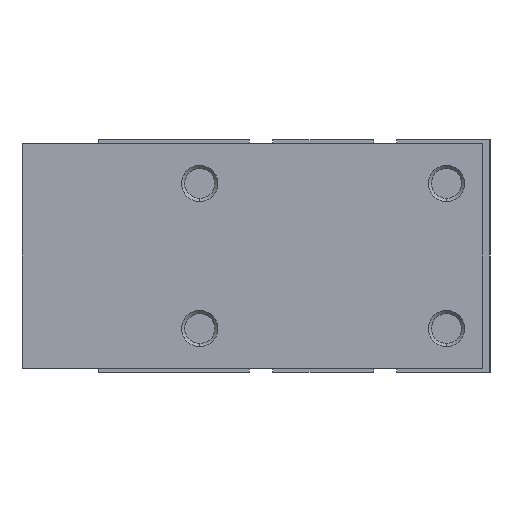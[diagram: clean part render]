
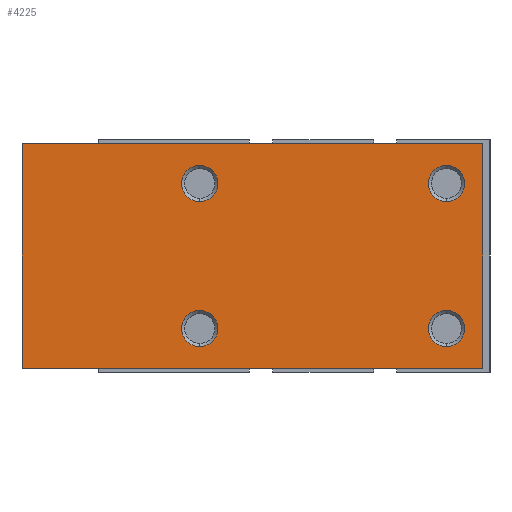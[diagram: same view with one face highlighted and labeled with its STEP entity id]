
A CAD part, left-side view. The second image highlights one B-rep face of the part: STEP entity #4225.
In plain terms, the highlighted planar face has unit normal (-1, 0, 0).
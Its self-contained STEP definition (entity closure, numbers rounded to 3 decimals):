
#113 = DIRECTION ( 'NONE',  ( 0., 0., 1. ) ) ;
#231 = CARTESIAN_POINT ( 'NONE',  ( -15.5, -17., 7.5 ) ) ;
#294 = EDGE_CURVE ( 'NONE', #4416, #3961, #3108, .T. ) ;
#307 = CARTESIAN_POINT ( 'NONE',  ( -15.5, 41.5, 15.5 ) ) ;
#316 = EDGE_LOOP ( 'NONE', ( #4082, #4719 ) ) ;
#350 = ORIENTED_EDGE ( 'NONE', *, *, #5688, .F. ) ;
#460 = VERTEX_POINT ( 'NONE', #1986 ) ;
#477 = CARTESIAN_POINT ( 'NONE',  ( -15.5, 17., 12.5 ) ) ;
#570 = CARTESIAN_POINT ( 'NONE',  ( -15.5, 41.5, -15.5 ) ) ;
#578 = FACE_BOUND ( 'NONE', #316, .T. ) ;
#601 = CARTESIAN_POINT ( 'NONE',  ( -15.5, -22., 15.5 ) ) ;
#825 = VERTEX_POINT ( 'NONE', #2387 ) ;
#826 = CARTESIAN_POINT ( 'NONE',  ( -15.5, 41.5, 15.5 ) ) ;
#857 = CARTESIAN_POINT ( 'NONE',  ( -15.5, 41.5, -15.5 ) ) ;
#879 = CARTESIAN_POINT ( 'NONE',  ( -15.5, -22., 15.5 ) ) ;
#891 = AXIS2_PLACEMENT_3D ( 'NONE', #4467, #3512, #5449 ) ;
#896 = EDGE_CURVE ( 'NONE', #5200, #460, #2395, .T. ) ;
#909 = EDGE_LOOP ( 'NONE', ( #4496, #3900 ) ) ;
#1123 = FACE_BOUND ( 'NONE', #4761, .T. ) ;
#1151 = EDGE_CURVE ( 'NONE', #5654, #4488, #3503, .T. ) ;
#1202 = DIRECTION ( 'NONE',  ( 0., 0., 1. ) ) ;
#1261 = FACE_BOUND ( 'NONE', #3729, .T. ) ;
#1492 = ORIENTED_EDGE ( 'NONE', *, *, #2253, .F. ) ;
#1670 = CARTESIAN_POINT ( 'NONE',  ( -15.5, 17., 10. ) ) ;
#1680 = LINE ( 'NONE', #826, #2419 ) ;
#1965 = CARTESIAN_POINT ( 'NONE',  ( -15.5, 17., -10. ) ) ;
#1986 = CARTESIAN_POINT ( 'NONE',  ( -15.5, -17., 12.5 ) ) ;
#2058 = DIRECTION ( 'NONE',  ( 0., 0., 1. ) ) ;
#2074 = VECTOR ( 'NONE', #5506, 1000. ) ;
#2094 = LINE ( 'NONE', #570, #2074 ) ;
#2103 = DIRECTION ( 'NONE',  ( -1., 0., 0. ) ) ;
#2116 = DIRECTION ( 'NONE',  ( -1., 0., 0. ) ) ;
#2159 = EDGE_CURVE ( 'NONE', #4488, #5654, #2729, .T. ) ;
#2253 = EDGE_CURVE ( 'NONE', #5146, #3236, #1680, .T. ) ;
#2254 = AXIS2_PLACEMENT_3D ( 'NONE', #5000, #2103, #4073 ) ;
#2301 = CIRCLE ( 'NONE', #3124, 2.5 ) ;
#2321 = AXIS2_PLACEMENT_3D ( 'NONE', #1670, #2116, #2058 ) ;
#2359 = EDGE_CURVE ( 'NONE', #5146, #2379, #2404, .T. ) ;
#2379 = VERTEX_POINT ( 'NONE', #857 ) ;
#2387 = CARTESIAN_POINT ( 'NONE',  ( -15.5, 17., 7.5 ) ) ;
#2395 = CIRCLE ( 'NONE', #6262, 2.5 ) ;
#2404 = LINE ( 'NONE', #6204, #5573 ) ;
#2419 = VECTOR ( 'NONE', #2693, 1000. ) ;
#2459 = CIRCLE ( 'NONE', #2254, 2.5 ) ;
#2522 = VECTOR ( 'NONE', #4214, 1000. ) ;
#2588 = AXIS2_PLACEMENT_3D ( 'NONE', #5086, #5113, #1202 ) ;
#2593 = ORIENTED_EDGE ( 'NONE', *, *, #294, .F. ) ;
#2691 = DIRECTION ( 'NONE',  ( -1., 0., 0. ) ) ;
#2693 = DIRECTION ( 'NONE',  ( 0., -1., 0. ) ) ;
#2729 = CIRCLE ( 'NONE', #6285, 2.5 ) ;
#2811 = AXIS2_PLACEMENT_3D ( 'NONE', #4018, #2691, #4934 ) ;
#2881 = DIRECTION ( 'NONE',  ( 0., 0., -1. ) ) ;
#3046 = CARTESIAN_POINT ( 'NONE',  ( -15.5, -17., -10. ) ) ;
#3059 = ORIENTED_EDGE ( 'NONE', *, *, #3342, .F. ) ;
#3108 = CIRCLE ( 'NONE', #5846, 2.5 ) ;
#3124 = AXIS2_PLACEMENT_3D ( 'NONE', #5959, #4971, #113 ) ;
#3236 = VERTEX_POINT ( 'NONE', #601 ) ;
#3342 = EDGE_CURVE ( 'NONE', #825, #4053, #4975, .T. ) ;
#3503 = CIRCLE ( 'NONE', #2588, 2.5 ) ;
#3512 = DIRECTION ( 'NONE',  ( 1., 0., 0. ) ) ;
#3525 = CARTESIAN_POINT ( 'NONE',  ( -15.5, 17., -7.5 ) ) ;
#3536 = ORIENTED_EDGE ( 'NONE', *, *, #5087, .F. ) ;
#3545 = FACE_OUTER_BOUND ( 'NONE', #6257, .T. ) ;
#3574 = CARTESIAN_POINT ( 'NONE',  ( -15.5, -17., -7.5 ) ) ;
#3711 = ORIENTED_EDGE ( 'NONE', *, *, #4161, .F. ) ;
#3729 = EDGE_LOOP ( 'NONE', ( #2593, #350 ) ) ;
#3798 = CARTESIAN_POINT ( 'NONE',  ( -15.5, -17., 10. ) ) ;
#3859 = DIRECTION ( 'NONE',  ( -1., 0., 0. ) ) ;
#3900 = ORIENTED_EDGE ( 'NONE', *, *, #2159, .F. ) ;
#3961 = VERTEX_POINT ( 'NONE', #4201 ) ;
#4018 = CARTESIAN_POINT ( 'NONE',  ( -15.5, -17., 10. ) ) ;
#4053 = VERTEX_POINT ( 'NONE', #477 ) ;
#4073 = DIRECTION ( 'NONE',  ( 0., 0., 1. ) ) ;
#4082 = ORIENTED_EDGE ( 'NONE', *, *, #4224, .F. ) ;
#4110 = VERTEX_POINT ( 'NONE', #5731 ) ;
#4140 = ORIENTED_EDGE ( 'NONE', *, *, #2359, .T. ) ;
#4158 = FACE_BOUND ( 'NONE', #909, .T. ) ;
#4161 = EDGE_CURVE ( 'NONE', #4053, #825, #2301, .T. ) ;
#4190 = DIRECTION ( 'NONE',  ( 0., 0., 1. ) ) ;
#4201 = CARTESIAN_POINT ( 'NONE',  ( -15.5, 17., -12.5 ) ) ;
#4214 = DIRECTION ( 'NONE',  ( 0., 0., -1. ) ) ;
#4224 = EDGE_CURVE ( 'NONE', #460, #5200, #5563, .T. ) ;
#4225 = ADVANCED_FACE ( 'NONE', ( #3545, #1261, #578, #4158, #1123 ), #6103, .F. ) ;
#4416 = VERTEX_POINT ( 'NONE', #3525 ) ;
#4467 = CARTESIAN_POINT ( 'NONE',  ( -15.5, 41.5, 15.5 ) ) ;
#4488 = VERTEX_POINT ( 'NONE', #5465 ) ;
#4496 = ORIENTED_EDGE ( 'NONE', *, *, #1151, .F. ) ;
#4719 = ORIENTED_EDGE ( 'NONE', *, *, #896, .F. ) ;
#4761 = EDGE_LOOP ( 'NONE', ( #3711, #3059 ) ) ;
#4893 = DIRECTION ( 'NONE',  ( -1., 0., 0. ) ) ;
#4934 = DIRECTION ( 'NONE',  ( 0., 0., 1. ) ) ;
#4971 = DIRECTION ( 'NONE',  ( -1., 0., 0. ) ) ;
#4975 = CIRCLE ( 'NONE', #2321, 2.5 ) ;
#5000 = CARTESIAN_POINT ( 'NONE',  ( -15.5, 17., -10. ) ) ;
#5086 = CARTESIAN_POINT ( 'NONE',  ( -15.5, -17., -10. ) ) ;
#5087 = EDGE_CURVE ( 'NONE', #3236, #4110, #5743, .T. ) ;
#5113 = DIRECTION ( 'NONE',  ( -1., 0., 0. ) ) ;
#5119 = DIRECTION ( 'NONE',  ( -1., 0., 0. ) ) ;
#5146 = VERTEX_POINT ( 'NONE', #307 ) ;
#5200 = VERTEX_POINT ( 'NONE', #231 ) ;
#5304 = ORIENTED_EDGE ( 'NONE', *, *, #6110, .T. ) ;
#5339 = DIRECTION ( 'NONE',  ( 0., 0., 1. ) ) ;
#5352 = DIRECTION ( 'NONE',  ( 0., 0., 1. ) ) ;
#5449 = DIRECTION ( 'NONE',  ( 0., 1., 0. ) ) ;
#5465 = CARTESIAN_POINT ( 'NONE',  ( -15.5, -17., -12.5 ) ) ;
#5506 = DIRECTION ( 'NONE',  ( 0., -1., 0. ) ) ;
#5563 = CIRCLE ( 'NONE', #2811, 2.5 ) ;
#5573 = VECTOR ( 'NONE', #2881, 1000. ) ;
#5654 = VERTEX_POINT ( 'NONE', #3574 ) ;
#5688 = EDGE_CURVE ( 'NONE', #3961, #4416, #2459, .T. ) ;
#5731 = CARTESIAN_POINT ( 'NONE',  ( -15.5, -22., -15.5 ) ) ;
#5743 = LINE ( 'NONE', #879, #2522 ) ;
#5846 = AXIS2_PLACEMENT_3D ( 'NONE', #1965, #4893, #5339 ) ;
#5959 = CARTESIAN_POINT ( 'NONE',  ( -15.5, 17., 10. ) ) ;
#6103 = PLANE ( 'NONE',  #891 ) ;
#6110 = EDGE_CURVE ( 'NONE', #2379, #4110, #2094, .T. ) ;
#6204 = CARTESIAN_POINT ( 'NONE',  ( -15.5, 41.5, 15.5 ) ) ;
#6257 = EDGE_LOOP ( 'NONE', ( #5304, #3536, #1492, #4140 ) ) ;
#6262 = AXIS2_PLACEMENT_3D ( 'NONE', #3798, #3859, #5352 ) ;
#6285 = AXIS2_PLACEMENT_3D ( 'NONE', #3046, #5119, #4190 ) ;
